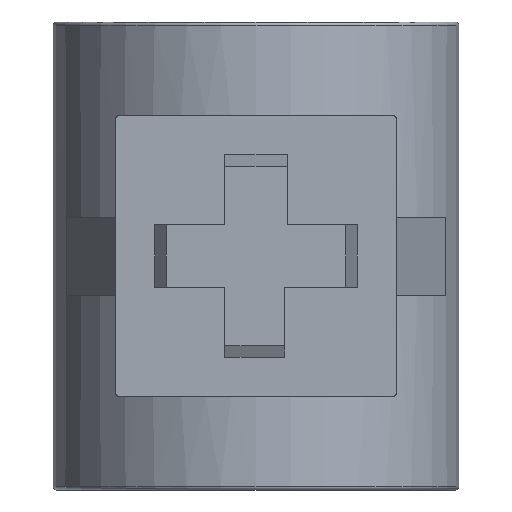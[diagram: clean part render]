
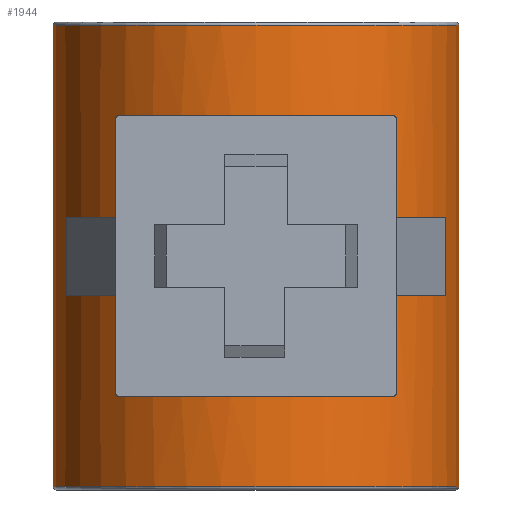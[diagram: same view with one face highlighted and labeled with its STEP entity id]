
A CAD part, front view. The second image highlights one B-rep face of the part: STEP entity #1944.
In plain terms, the highlighted cylindrical face has radius 13 mm (diameter 26 mm), a partial arc.
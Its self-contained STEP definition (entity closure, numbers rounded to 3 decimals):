
#124=CARTESIAN_POINT('',(-209.868,-356.245,6.));
#125=VERTEX_POINT('',#124);
#133=CARTESIAN_POINT('',(-205.061,-357.16,6.));
#134=VERTEX_POINT('',#133);
#135=CARTESIAN_POINT('',(-205.075,-344.16,6.));
#136=DIRECTION('',(0.0,0.0,-1.0));
#137=DIRECTION('',(-1.0,0.0,0.0));
#138=AXIS2_PLACEMENT_3D('',#135,#136,#137);
#139=CIRCLE('',#138,13.0);
#140=EDGE_CURVE('',#134,#125,#139,.T.);
#553=CARTESIAN_POINT('',(-205.061,-357.16,24.));
#554=VERTEX_POINT('',#553);
#562=CARTESIAN_POINT('',(-209.868,-356.245,24.));
#563=VERTEX_POINT('',#562);
#564=CARTESIAN_POINT('',(-205.075,-344.16,24.));
#565=DIRECTION('',(0.0,0.0,1.0));
#566=DIRECTION('',(-1.0,0.0,0.0));
#567=AXIS2_PLACEMENT_3D('',#564,#565,#566);
#568=CIRCLE('',#567,13.0);
#569=EDGE_CURVE('',#563,#554,#568,.T.);
#631=CARTESIAN_POINT('',(-192.075,-344.16,29.8));
#632=VERTEX_POINT('',#631);
#706=CARTESIAN_POINT('',(-218.075,-344.16,29.8));
#707=VERTEX_POINT('',#706);
#725=CARTESIAN_POINT('',(-205.075,-344.16,29.8));
#726=DIRECTION('',(0.0,0.0,1.0));
#727=DIRECTION('',(0.0,-1.0,0.0));
#728=AXIS2_PLACEMENT_3D('',#725,#726,#727);
#729=CIRCLE('',#728,13.0);
#730=EDGE_CURVE('',#707,#632,#729,.T.);
#891=CARTESIAN_POINT('',(-192.075,-344.16,0.2));
#892=VERTEX_POINT('',#891);
#893=CARTESIAN_POINT('',(-192.075,-344.16,0.2));
#894=DIRECTION('',(0.0,0.0,1.0));
#895=VECTOR('',#894,29.6);
#896=LINE('',#893,#895);
#897=EDGE_CURVE('',#892,#632,#896,.T.);
#1059=CARTESIAN_POINT('',(-218.075,-344.16,0.2));
#1060=VERTEX_POINT('',#1059);
#1109=CARTESIAN_POINT('',(-205.075,-344.16,0.2));
#1110=DIRECTION('',(0.0,0.0,-1.0));
#1111=DIRECTION('',(0.0,-1.0,0.0));
#1112=AXIS2_PLACEMENT_3D('',#1109,#1110,#1111);
#1113=CIRCLE('',#1112,13.0);
#1114=EDGE_CURVE('',#892,#1060,#1113,.T.);
#1579=CARTESIAN_POINT('',(-209.868,-356.245,12.5));
#1580=VERTEX_POINT('',#1579);
#1581=CARTESIAN_POINT('',(-217.243,-348.736,12.5));
#1582=VERTEX_POINT('',#1581);
#1583=CARTESIAN_POINT('',(-205.075,-344.16,12.5));
#1584=DIRECTION('',(0.0,0.0,-1.0));
#1585=DIRECTION('',(-1.0,0.0,0.0));
#1586=AXIS2_PLACEMENT_3D('',#1583,#1584,#1585);
#1587=CIRCLE('',#1586,13.0);
#1588=EDGE_CURVE('',#1580,#1582,#1587,.T.);
#1646=CARTESIAN_POINT('',(-217.243,-348.736,17.5));
#1647=VERTEX_POINT('',#1646);
#1654=CARTESIAN_POINT('',(-217.243,-348.736,12.5));
#1655=DIRECTION('',(0.0,0.0,1.0));
#1656=VECTOR('',#1655,5.0);
#1657=LINE('',#1654,#1656);
#1658=EDGE_CURVE('',#1582,#1647,#1657,.T.);
#1675=CARTESIAN_POINT('',(-209.868,-356.245,17.5));
#1676=VERTEX_POINT('',#1675);
#1677=CARTESIAN_POINT('',(-205.075,-344.16,17.5));
#1678=DIRECTION('',(0.0,0.0,1.0));
#1679=DIRECTION('',(-1.0,0.0,0.0));
#1680=AXIS2_PLACEMENT_3D('',#1677,#1678,#1679);
#1681=CIRCLE('',#1680,13.0);
#1682=EDGE_CURVE('',#1647,#1676,#1681,.T.);
#1702=CARTESIAN_POINT('',(-192.907,-348.736,12.5));
#1703=VERTEX_POINT('',#1702);
#1704=CARTESIAN_POINT('',(-200.893,-356.469,12.5));
#1705=VERTEX_POINT('',#1704);
#1706=CARTESIAN_POINT('',(-205.075,-344.16,12.5));
#1707=DIRECTION('',(0.0,0.0,-1.0));
#1708=DIRECTION('',(-1.0,0.0,0.0));
#1709=AXIS2_PLACEMENT_3D('',#1706,#1707,#1708);
#1710=CIRCLE('',#1709,13.0);
#1711=EDGE_CURVE('',#1703,#1705,#1710,.T.);
#1753=CARTESIAN_POINT('',(-200.893,-356.469,17.5));
#1754=VERTEX_POINT('',#1753);
#1755=CARTESIAN_POINT('',(-200.893,-356.469,12.5));
#1756=DIRECTION('',(0.0,0.0,1.0));
#1757=VECTOR('',#1756,5.0);
#1758=LINE('',#1755,#1757);
#1759=EDGE_CURVE('',#1705,#1754,#1758,.T.);
#1785=CARTESIAN_POINT('',(-192.907,-348.736,17.5));
#1786=VERTEX_POINT('',#1785);
#1795=CARTESIAN_POINT('',(-192.907,-348.736,17.5));
#1796=DIRECTION('',(0.0,0.0,-1.0));
#1797=VECTOR('',#1796,5.0);
#1798=LINE('',#1795,#1797);
#1799=EDGE_CURVE('',#1786,#1703,#1798,.T.);
#1809=CARTESIAN_POINT('',(-205.075,-344.16,17.5));
#1810=DIRECTION('',(0.0,0.0,1.0));
#1811=DIRECTION('',(-1.0,0.0,0.0));
#1812=AXIS2_PLACEMENT_3D('',#1809,#1810,#1811);
#1813=CIRCLE('',#1812,13.0);
#1814=EDGE_CURVE('',#1754,#1786,#1813,.T.);
#1897=CARTESIAN_POINT('',(-205.075,-344.16,0.0));
#1898=DIRECTION('',(0.0,0.0,1.0));
#1899=DIRECTION('',(-1.0,0.0,0.0));
#1900=AXIS2_PLACEMENT_3D('',#1897,#1898,#1899);
#1901=CYLINDRICAL_SURFACE('',#1900,13.0);
#1902=ORIENTED_EDGE('',*,*,#730,.F.);
#1903=CARTESIAN_POINT('',(-218.075,-344.16,0.2));
#1904=DIRECTION('',(0.0,0.0,1.0));
#1905=VECTOR('',#1904,29.6);
#1906=LINE('',#1903,#1905);
#1907=EDGE_CURVE('',#1060,#707,#1906,.T.);
#1908=ORIENTED_EDGE('',*,*,#1907,.F.);
#1909=ORIENTED_EDGE('',*,*,#1114,.F.);
#1910=ORIENTED_EDGE('',*,*,#897,.T.);
#1911=EDGE_LOOP('',(#1902,#1908,#1909,#1910));
#1912=FACE_OUTER_BOUND('',#1911,.T.);
#1913=ORIENTED_EDGE('',*,*,#1588,.T.);
#1914=ORIENTED_EDGE('',*,*,#1658,.T.);
#1915=ORIENTED_EDGE('',*,*,#1682,.T.);
#1916=CARTESIAN_POINT('',(-209.868,-356.245,17.5));
#1917=DIRECTION('',(0.0,0.0,1.0));
#1918=VECTOR('',#1917,6.5);
#1919=LINE('',#1916,#1918);
#1920=EDGE_CURVE('',#1676,#563,#1919,.T.);
#1921=ORIENTED_EDGE('',*,*,#1920,.T.);
#1922=ORIENTED_EDGE('',*,*,#569,.T.);
#1923=CARTESIAN_POINT('',(-205.061,-357.16,24.));
#1924=DIRECTION('',(0.0,0.0,-1.0));
#1925=VECTOR('',#1924,18.0);
#1926=LINE('',#1923,#1925);
#1927=EDGE_CURVE('',#554,#134,#1926,.T.);
#1928=ORIENTED_EDGE('',*,*,#1927,.T.);
#1929=ORIENTED_EDGE('',*,*,#140,.T.);
#1930=CARTESIAN_POINT('',(-209.868,-356.245,6.));
#1931=DIRECTION('',(0.0,0.0,1.0));
#1932=VECTOR('',#1931,6.5);
#1933=LINE('',#1930,#1932);
#1934=EDGE_CURVE('',#125,#1580,#1933,.T.);
#1935=ORIENTED_EDGE('',*,*,#1934,.T.);
#1936=EDGE_LOOP('',(#1913,#1914,#1915,#1921,#1922,#1928,#1929,#1935));
#1937=FACE_BOUND('',#1936,.T.);
#1938=ORIENTED_EDGE('',*,*,#1799,.T.);
#1939=ORIENTED_EDGE('',*,*,#1711,.T.);
#1940=ORIENTED_EDGE('',*,*,#1759,.T.);
#1941=ORIENTED_EDGE('',*,*,#1814,.T.);
#1942=EDGE_LOOP('',(#1938,#1939,#1940,#1941));
#1943=FACE_BOUND('',#1942,.T.);
#1944=ADVANCED_FACE('',(#1912,#1937,#1943),#1901,.T.);
